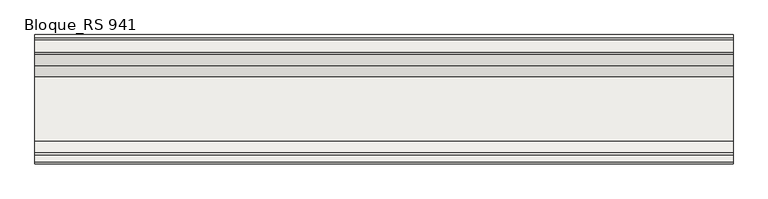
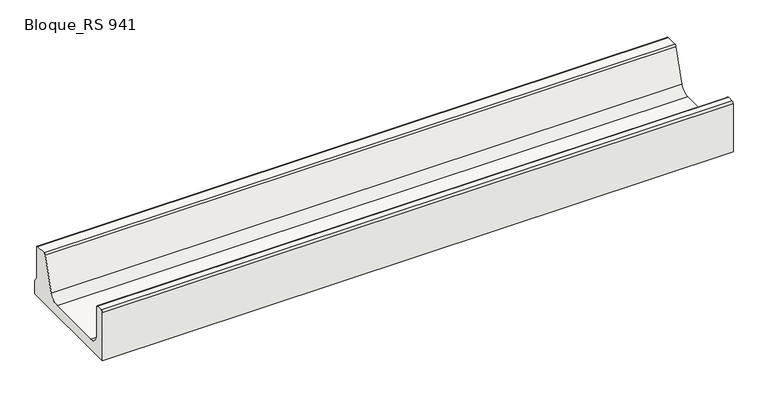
"""IFC4 building model written with IfcOpenShell, lengths in millimetres: slab geometry, ROSA GRES_RS 941 : Bloque_RS 941."""

from ifc_helpers import new_model, si_unit, point, frame, frame_2d, origin, place, context, project, spatial, polyline, circle_curve, trimmed, segment, composite_curve, outline, extrude, source, transform, mapped, element, save


def bloque_rs_941_a42575e4(model_context):
    return source(origin(), model_context, "Body", "SweptSolid", [
        extrude(outline(composite_curve([segment(polyline([(-290.7950654, 126.0), (-276.7901448, 126.0)]), True, "CONTINUOUS"), segment(trimmed(circle_curve(frame_2d((-276.7873115, 121.0029619)), 4.9970389), [point((-276.7901448, 126.0))], [point((-271.7950654, 121.221769))], False, "CARTESIAN"), True, "CONTINUOUS"), segment(polyline([(-271.7950654, 121.221769), (-271.7950654, 50.0)]), True, "CONTINUOUS"), segment(trimmed(circle_curve(frame_2d((-246.8549987, 49.9398968)), 24.9401391), [point((-271.7950654, 50.0))], [point((-246.7450654, 25.0))], True, "CARTESIAN"), True, "CONTINUOUS"), segment(polyline([(-246.7450654, 25.0), (-107.8238571, 25.0)]), True, "CONTINUOUS"), segment(trimmed(circle_curve(frame_2d((-107.6378199, 49.7467022)), 24.7474015), [point((-107.8238571, 25.0))], [point((-83.9689438, 42.5204875))], True, "CARTESIAN"), True, "CONTINUOUS"), segment(polyline([(-83.9689438, 42.5204875), (-58.8933079, 122.4959025)]), True, "CONTINUOUS"), segment(trimmed(circle_curve(frame_2d((-54.1351224, 121.0174239)), 4.9825925), [point((-58.8933079, 122.4959025))], [point((-54.1223252, 126.0))], False, "CARTESIAN"), True, "CONTINUOUS"), segment(polyline([(-54.1223252, 126.0), (-27.7946272, 126.0)]), True, "CONTINUOUS"), segment(trimmed(circle_curve(frame_2d((-27.7946272, 121.0)), 5.0), [point((-27.7946272, 126.0))], [point((-22.7946272, 121.0))], False, "CARTESIAN"), True, "CONTINUOUS"), segment(polyline([(-22.7946272, 121.0), (-22.7946272, 44.0), (-15.7946269, 32.0012714), (-15.7946269, 0.0), (-295.7950654, 0.0), (-295.7950654, 121.0)]), True, "CONTINUOUS"), segment(trimmed(circle_curve(frame_2d((-290.8048832, 121.0098178)), 4.9901918), [point((-295.7950654, 121.0))], [point((-290.7950654, 126.0))], False, "CARTESIAN"), True, "CONTINUOUS")], self_intersect=False)), frame((0.0, 0.0, 0.0), z_axis=(1.0, 0.0, 0.0), x_axis=(0.0, 1.0, 0.0)), (0.0, 0.0, 1.0), 1509.375),
    ])


if __name__ == "__main__":
    model = new_model("IFC4")
    model_context = context("Model", 3, world=origin())
    ifc_project = project(units=[si_unit("LENGTHUNIT", "METRE", prefix="MILLI")], contexts=[model_context])
    site = spatial("IfcSite", under=ifc_project)
    building = spatial("IfcBuilding", under=site)
    placement = place(None, origin())
    bloque_rs_941_shape = bloque_rs_941_a42575e4(model_context)
    element("IfcSlab", 1, ObjectType="ROSA GRES_RS 941 : Bloque_RS 941", at=placement, inside=building, context=model_context, shape_type="MappedRepresentation", body=[
        mapped(bloque_rs_941_shape, transform((0.0, 0.0, 0.0), x_axis=(1.0, 0.0, 0.0), y_axis=(0.0, 1.0, 0.0), z_axis=(0.0, 0.0, 1.0))),
    ])
    save(model, "model.ifc")
